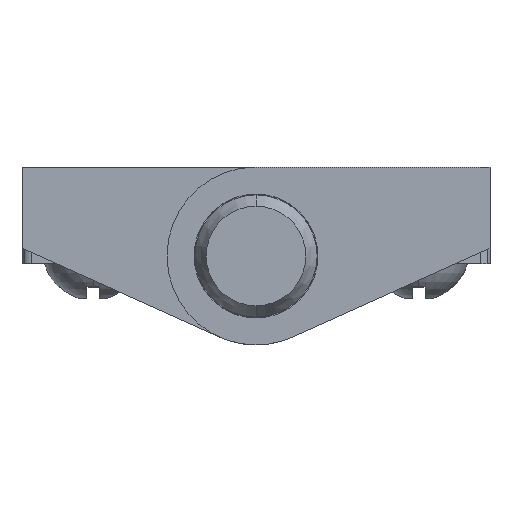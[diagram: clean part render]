
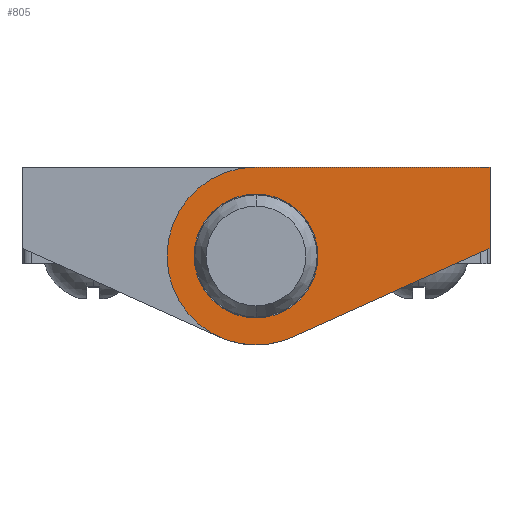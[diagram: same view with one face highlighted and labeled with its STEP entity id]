
A CAD part, left-side view. The second image highlights one B-rep face of the part: STEP entity #805.
In plain terms, the highlighted planar face has unit normal (-1, 0, 0).
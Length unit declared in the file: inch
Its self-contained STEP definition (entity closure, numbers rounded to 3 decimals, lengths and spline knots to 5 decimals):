
#805=ADVANCED_FACE('',(#1727,#1728),#1729,.F.);
#1727=FACE_OUTER_BOUND('',#2830,.T.);
#1728=FACE_BOUND('',#2831,.T.);
#1729=PLANE('',#2832);
#2830=EDGE_LOOP('',(#4948,#4949,#4950,#4951,#4952));
#2831=EDGE_LOOP('',(#4953,#4954));
#2832=AXIS2_PLACEMENT_3D('',#4955,#4956,#4957);
#4948=ORIENTED_EDGE('',*,*,#7188,.F.);
#4949=ORIENTED_EDGE('',*,*,#7189,.F.);
#4950=ORIENTED_EDGE('',*,*,#6468,.F.);
#4951=ORIENTED_EDGE('',*,*,#7190,.F.);
#4952=ORIENTED_EDGE('',*,*,#7191,.F.);
#4953=ORIENTED_EDGE('',*,*,#7013,.F.);
#4954=ORIENTED_EDGE('',*,*,#7192,.F.);
#4955=CARTESIAN_POINT('',(-8.92785,-2.15515,0.02924));
#4956=DIRECTION('',(1.0,0.0,0.));
#4957=DIRECTION('',(0.,0.0,-1.0));
#6468=EDGE_CURVE('',#7765,#7767,#7768,.T.);
#7013=EDGE_CURVE('',#8637,#8632,#8639,.T.);
#7188=EDGE_CURVE('',#8877,#8878,#8879,.T.);
#7189=EDGE_CURVE('',#7767,#8877,#8880,.T.);
#7190=EDGE_CURVE('',#8881,#7765,#8882,.T.);
#7191=EDGE_CURVE('',#8878,#8881,#8883,.T.);
#7192=EDGE_CURVE('',#8632,#8637,#8884,.T.);
#7765=VERTEX_POINT('',#9611);
#7767=VERTEX_POINT('',#9614);
#7768=LINE('',#9615,#9616);
#8632=VERTEX_POINT('',#10825);
#8637=VERTEX_POINT('',#10831);
#8639=CIRCLE('',#10834,0.19);
#8877=VERTEX_POINT('',#11193);
#8878=VERTEX_POINT('',#11194);
#8879=LINE('',#11195,#11196);
#8880=LINE('',#11197,#11198);
#8881=VERTEX_POINT('',#11199);
#8882=CIRCLE('',#11200,0.273);
#8883=CIRCLE('',#11201,0.273);
#8884=CIRCLE('',#11202,0.19);
#9611=CARTESIAN_POINT('',(-8.92785,-2.,0.273));
#9614=CARTESIAN_POINT('',(-8.92785,-2.718,0.273));
#9615=CARTESIAN_POINT('',(-8.92785,-2.,0.273));
#9616=VECTOR('',#11951,0.3937);
#10825=CARTESIAN_POINT('',(-8.92785,-2.,0.19));
#10831=CARTESIAN_POINT('',(-8.92785,-2.,-0.19));
#10834=AXIS2_PLACEMENT_3D('',#12715,#12716,#12717);
#11193=CARTESIAN_POINT('',(-8.92785,-2.718,0.02362));
#11194=CARTESIAN_POINT('',(-8.92785,-2.11199,-0.24897));
#11195=CARTESIAN_POINT('',(-8.92785,-2.718,0.02362));
#11196=VECTOR('',#12945,0.3937);
#11197=CARTESIAN_POINT('',(-8.92785,-2.718,0.273));
#11198=VECTOR('',#12946,0.3937);
#11199=CARTESIAN_POINT('',(-8.92785,-2.,-0.273));
#11200=AXIS2_PLACEMENT_3D('',#12947,#12948,#12949);
#11201=AXIS2_PLACEMENT_3D('',#12950,#12951,#12952);
#11202=AXIS2_PLACEMENT_3D('',#12953,#12954,#12955);
#11951=DIRECTION('',(0.0,-1.0,-0.0));
#12715=CARTESIAN_POINT('',(-8.92785,-2.,0.));
#12716=DIRECTION('',(-1.0,0.0,0.));
#12717=DIRECTION('',(0.,0.0,1.0));
#12945=DIRECTION('',(0.,0.912,-0.41));
#12946=DIRECTION('',(0.,0.,-1.0));
#12947=CARTESIAN_POINT('',(-8.92785,-2.,0.));
#12948=DIRECTION('',(1.0,0.0,0.));
#12949=DIRECTION('',(0.,0.0,-1.0));
#12950=CARTESIAN_POINT('',(-8.92785,-2.,0.));
#12951=DIRECTION('',(1.0,0.0,0.));
#12952=DIRECTION('',(0.,0.0,-1.0));
#12953=CARTESIAN_POINT('',(-8.92785,-2.,0.));
#12954=DIRECTION('',(-1.0,0.0,0.));
#12955=DIRECTION('',(0.,0.0,1.0));
